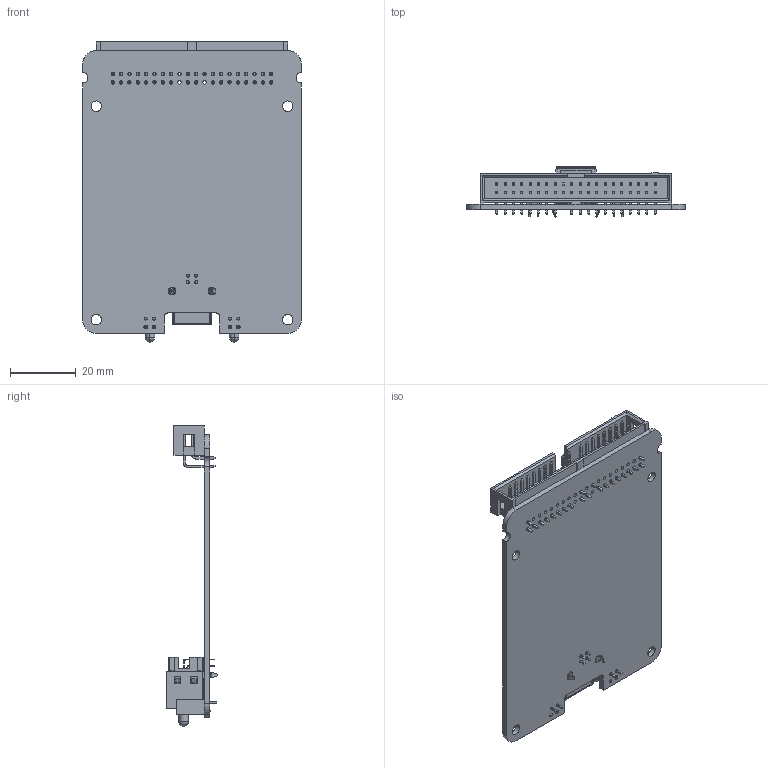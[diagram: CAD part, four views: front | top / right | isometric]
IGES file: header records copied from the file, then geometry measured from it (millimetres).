
Start section:  PTC IGES file: cu_usb-8452_oem.igs
Global section: file name: cu_usb-8452_oem.igs; native system: Pro/ENGINEER by Parametric Technology Corporation; preprocessor: 2010230; author: talbott; organization: Unknown; date: 20120322.145855; units: inch
Bounding box: 66.55 x 15.43 x 91.39 mm (x, y, z)
Surface area: 18883.9 mm2 (no closed solid volume)
Topology: 0 solids, 0 shells, 1589 faces, 9100 edges, 9088 vertices
Faces by surface type: bspline 1301, revolution 286, extrusion 2
